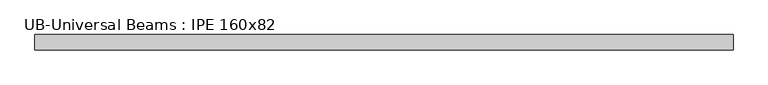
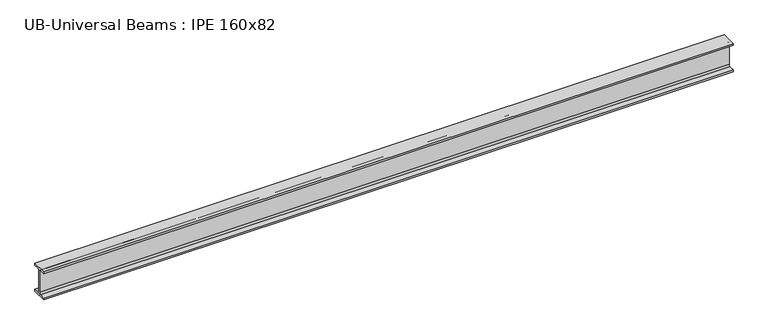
"""IFC4 building model written with IfcOpenShell, lengths in millimetres: beam geometry, UB-Universal Beams : IPE 160x82."""

import ifcopenshell
import ifcopenshell.guid

model = None  # the IFC model being written
_history = None  # IfcOwnerHistory: only IFC2X3 demands one
_inside = {}  # id of a spatial element -> (the spatial element, [elements in it])
_under = {}  # id of a project, library or spatial element -> (it, [spatial elements below it])
_declared = {}  # id of a project -> (the project, [libraries it declares])
_typed = {}  # id of a type object -> (the type object, [elements of that type])
_made_of = {}  # id of a material, layer set ... -> (it, [elements and type objects made of it])


def new_model(schema):
    """Start an empty IFC model of exactly this schema.

    Asked for "IFC4X3", IfcOpenShell would pick the latest addendum, in which some entities
    have other attributes; the version numbers below select the first issue.
    IFC2X3 requires an IfcOwnerHistory on every rooted entity: one is made here for all.
    """
    global model, _history
    if schema == "IFC4X3":
        model = ifcopenshell.file(schema_version=(4, 3, 0, 0))
    else:
        model = ifcopenshell.file(schema=schema)
    _inside.clear()
    _under.clear()
    _declared.clear()
    _typed.clear()
    _made_of.clear()
    _history = None
    if model.schema == "IFC2X3":
        org = make("IfcOrganization", Name="unknown")
        user = make(
            "IfcPersonAndOrganization",
            ThePerson=make("IfcPerson", FamilyName="unknown"),
            TheOrganization=org,
        )
        app = make(
            "IfcApplication",
            ApplicationDeveloper=org,
            Version="unknown",
            ApplicationFullName="unknown",
            ApplicationIdentifier="unknown",
        )
        _history = make(
            "IfcOwnerHistory",
            OwningUser=user,
            OwningApplication=app,
            ChangeAction="ADDED",
            CreationDate=0,
        )
    return model


def make(cls, **values):
    """One entity of the class cls with the attributes given. An attribute that is None is left unset."""
    return model.create_entity(
        cls, **{name: value for name, value in values.items() if value is not None}
    )


def rooted(cls, **values):
    """An entity with a GlobalId (a new one), such as an element, a storey or a relation."""
    return make(cls, GlobalId=ifcopenshell.guid.new(), OwnerHistory=_history, **values)


def si_unit(unit_type, name, prefix=None):
    """IfcSIUnit, for example si_unit("LENGTHUNIT", "METRE", prefix="MILLI")."""
    return make("IfcSIUnit", UnitType=unit_type, Prefix=prefix, Name=name)


def assignment(units):
    """IfcUnitAssignment: the units of a project."""
    return None if units is None else make("IfcUnitAssignment", Units=units)


def point(xyz):
    """IfcCartesianPoint."""
    return None if xyz is None else make("IfcCartesianPoint", Coordinates=xyz)


def direction(xyz):
    """IfcDirection."""
    return None if xyz is None else make("IfcDirection", DirectionRatios=xyz)


def frame(location, z_axis=None, x_axis=None):
    """IfcAxis2Placement3D, a coordinate frame: its origin and axes. An axis left out is left unset."""
    return make(
        "IfcAxis2Placement3D",
        Location=point(location),
        Axis=direction(z_axis),
        RefDirection=direction(x_axis),
    )


def frame_2d(location, x_axis=None):
    """IfcAxis2Placement2D, a coordinate frame in the plane: its origin and x axis."""
    return make(
        "IfcAxis2Placement2D", Location=point(location), RefDirection=direction(x_axis)
    )


def origin():
    """The frame at (0, 0, 0) with its axes left unset."""
    return frame((0.0, 0.0, 0.0))


def place(relative_to, where):
    """IfcLocalPlacement: puts the frame where relative to a parent placement (None: the world)."""
    return make(
        "IfcLocalPlacement", PlacementRelTo=relative_to, RelativePlacement=where
    )


def context(
    kind, dimensions, precision=None, world=None, true_north=None, identifier=None
):
    """IfcGeometricRepresentationContext, for example the 3D "Model" context."""
    return make(
        "IfcGeometricRepresentationContext",
        ContextIdentifier=identifier,
        ContextType=kind,
        CoordinateSpaceDimension=dimensions,
        Precision=precision,
        WorldCoordinateSystem=world,
        TrueNorth=true_north,
    )


def project(units=None, contexts=None):
    """IfcProject with its units and contexts."""
    return rooted(
        "IfcProject",
        Name="project",
        RepresentationContexts=contexts,
        UnitsInContext=assignment(units),
    )


def spatial(cls, under=None, at=None, **own):
    """A site, building, storey or space (cls), placed at a placement, below another one or the project."""
    s = rooted(cls, ObjectPlacement=at, **own)
    if under is not None:
        _under.setdefault(under.id(), (under, []))[1].append(s)
    return s


def polyline(points):
    """IfcPolyline through the points."""
    return make("IfcPolyline", Points=[point(p) for p in points])


def circle_curve(where, radius):
    """IfcCircle in the frame where."""
    return make("IfcCircle", Position=where, Radius=radius)


def trimmed(basis, trim1, trim2, sense, master):
    """IfcTrimmedCurve: the piece of a basis curve between two trims."""
    return make(
        "IfcTrimmedCurve",
        BasisCurve=basis,
        Trim1=trim1,
        Trim2=trim2,
        SenseAgreement=sense,
        MasterRepresentation=master,
    )


def segment(curve, same_sense, transition):
    """IfcCompositeCurveSegment."""
    return make(
        "IfcCompositeCurveSegment",
        Transition=transition,
        SameSense=same_sense,
        ParentCurve=curve,
    )


def composite_curve(segments, self_intersect=None):
    """IfcCompositeCurve: segments joined end to end."""
    return make("IfcCompositeCurve", Segments=segments, SelfIntersect=self_intersect)


def outline(outer, holes=None, kind="AREA"):
    """IfcArbitraryClosedProfileDef: a profile drawn as a closed curve; with holes, ...WithVoids."""
    if holes is None:
        return make("IfcArbitraryClosedProfileDef", ProfileType=kind, OuterCurve=outer)
    return make(
        "IfcArbitraryProfileDefWithVoids",
        ProfileType=kind,
        OuterCurve=outer,
        InnerCurves=holes,
    )


def extrude(swept, where, along, depth):
    """IfcExtrudedAreaSolid: the profile swept, set in the frame where, extruded along a direction by depth."""
    return make(
        "IfcExtrudedAreaSolid",
        SweptArea=swept,
        Position=where,
        ExtrudedDirection=direction(along),
        Depth=depth,
    )


def shape(context_of_items, identifier, shape_type, items):
    """IfcShapeRepresentation: the items that make up one representation, for example the "Body"."""
    return make(
        "IfcShapeRepresentation",
        ContextOfItems=context_of_items,
        RepresentationIdentifier=identifier,
        RepresentationType=shape_type,
        Items=items,
    )


def source(mapping_origin, context_of_items, identifier, shape_type, items):
    """IfcRepresentationMap: a shape defined once, which mapped items show again and again."""
    return make(
        "IfcRepresentationMap",
        MappingOrigin=mapping_origin,
        MappedRepresentation=shape(context_of_items, identifier, shape_type, items),
    )


def transform(
    local_origin,
    x_axis=None,
    y_axis=None,
    z_axis=None,
    scale=None,
    scale2=None,
    scale3=None,
    uniform=True,
):
    """IfcCartesianTransformationOperator3D, or its non-uniform kind. x_axis, y_axis, z_axis: its Axis1, 2, 3."""
    if uniform:
        return make(
            "IfcCartesianTransformationOperator3D",
            Axis1=direction(x_axis),
            Axis2=direction(y_axis),
            LocalOrigin=point(local_origin),
            Scale=scale,
            Axis3=direction(z_axis),
        )
    return make(
        "IfcCartesianTransformationOperator3DnonUniform",
        Axis1=direction(x_axis),
        Axis2=direction(y_axis),
        LocalOrigin=point(local_origin),
        Scale=scale,
        Axis3=direction(z_axis),
        Scale2=scale2,
        Scale3=scale3,
    )


def mapped(mapping_source, mapping_target):
    """IfcMappedItem: shows the shape of a source again, moved by a transform."""
    return make(
        "IfcMappedItem", MappingSource=mapping_source, MappingTarget=mapping_target
    )


def made_of(thing, what):
    """Note that an element or type object is made of a material, layer set ...; save() writes the relation."""
    if what is not None:
        _made_of.setdefault(what.id(), (what, []))[1].append(thing)
    return thing


def element(
    cls,
    number,
    at=None,
    inside=None,
    cuts=None,
    type_object=None,
    material=None,
    context=None,
    identifier="Body",
    shape_type=None,
    held_by="IfcProductDefinitionShape",
    body=None,
    shapes=None,
    **own,
):
    """One element of the class cls, such as IfcWall. Its Tag is "e" and its number.

    at: its placement. inside: the storey or other place that contains it. cuts: it is an
    opening in that element (IfcRelVoidsElement). A single representation is given by context,
    identifier, shape_type and body (its items); several are given by shapes. held_by: the class
    of the entity that holds the representations. save() writes the other relations.
    """
    e = rooted(cls, Tag="e%d" % number, ObjectPlacement=at, **own)
    if body is not None:
        shapes = [shape(context, identifier, shape_type, body)]
    if shapes is not None:
        e.Representation = make(held_by, Representations=shapes)
    if inside is not None:
        _inside.setdefault(inside.id(), (inside, []))[1].append(e)
    if cuts is not None:
        rooted(
            "IfcRelVoidsElement", RelatingBuildingElement=cuts, RelatedOpeningElement=e
        )
    if type_object is not None:
        _typed.setdefault(type_object.id(), (type_object, []))[1].append(e)
    return made_of(e, material)


def aggregate(whole, parts):
    """IfcRelAggregates: a whole, such as a stair, and the parts it consists of."""
    return rooted("IfcRelAggregates", RelatingObject=whole, RelatedObjects=parts)


def save(model, path):
    """Write the relations noted so far, then the file.

    IfcRelAggregates (storeys below a building ...), IfcRelContainedInSpatialStructure (elements
    in a storey), IfcRelDefinesByType, IfcRelAssociatesMaterial and IfcRelDeclares: one each for
    every whole, place, type object, material and project.
    """
    for whole, parts in _under.values():
        aggregate(whole, parts)
    for where, things in _inside.values():
        rooted(
            "IfcRelContainedInSpatialStructure",
            RelatedElements=things,
            RelatingStructure=where,
        )
    for kind, things in _typed.values():
        rooted("IfcRelDefinesByType", RelatedObjects=things, RelatingType=kind)
    for what, things in _made_of.values():
        rooted("IfcRelAssociatesMaterial", RelatedObjects=things, RelatingMaterial=what)
    for by, libraries in _declared.values():
        rooted("IfcRelDeclares", RelatingContext=by, RelatedDefinitions=libraries)
    model.write(path)


def ub_universal_beams_ipe_160x82_b193801a(model_context):
    return source(origin(), model_context, "Body", "SweptSolid", [
        extrude(outline(composite_curve([segment(polyline([(-41.0, -69.8), (-11.9, -69.8)]), True, "CONTINUOUS"), segment(trimmed(circle_curve(frame_2d((-11.9, -60.9)), 8.9), [point((-11.9, -69.8))], [point((-3.0, -60.9))], True, "CARTESIAN"), True, "CONTINUOUS"), segment(polyline([(-3.0, -60.9), (-3.0, 60.9)]), True, "CONTINUOUS"), segment(trimmed(circle_curve(frame_2d((-11.9, 60.9)), 8.9), [point((-3.0, 60.9))], [point((-11.9, 69.8))], True, "CARTESIAN"), True, "CONTINUOUS"), segment(polyline([(-11.9, 69.8), (-41.0, 69.8), (-41.0, 80.0), (41.0, 80.0), (41.0, 69.8), (11.9, 69.8)]), True, "CONTINUOUS"), segment(trimmed(circle_curve(frame_2d((11.9, 60.9)), 8.9), [point((11.9, 69.8))], [point((3.0, 60.9))], True, "CARTESIAN"), True, "CONTINUOUS"), segment(polyline([(3.0, 60.9), (3.0, -60.9)]), True, "CONTINUOUS"), segment(trimmed(circle_curve(frame_2d((11.9, -60.9)), 8.9), [point((3.0, -60.9))], [point((11.9, -69.8))], True, "CARTESIAN"), True, "CONTINUOUS"), segment(polyline([(11.9, -69.8), (41.0, -69.8), (41.0, -80.0), (-41.0, -80.0), (-41.0, -69.8)]), True, "CONTINUOUS")], self_intersect=False)), frame((-1890.05, 0.0, 0.0), z_axis=(1.0, 0.0, 0.0), x_axis=(0.0, 1.0, 0.0)), (0.0, 0.0, 1.0), 3732.8),
    ])


if __name__ == "__main__":
    model = new_model("IFC4")
    model_context = context("Model", 3, world=origin())
    ifc_project = project(units=[si_unit("LENGTHUNIT", "METRE", prefix="MILLI")], contexts=[model_context])
    site = spatial("IfcSite", under=ifc_project)
    building = spatial("IfcBuilding", under=site)
    placement = place(None, origin())
    ub_universal_beams_ipe_160x82_shape = ub_universal_beams_ipe_160x82_b193801a(model_context)
    element("IfcBeam", 1, ObjectType="UB-Universal Beams : IPE 160x82", at=placement, inside=building, context=model_context, shape_type="MappedRepresentation", body=[
        mapped(ub_universal_beams_ipe_160x82_shape, transform((0.0, 0.0, 0.0), x_axis=(1.0, 0.0, 0.0), y_axis=(0.0, 1.0, 0.0), z_axis=(0.0, 0.0, 1.0))),
    ])
    save(model, "model.ifc")
